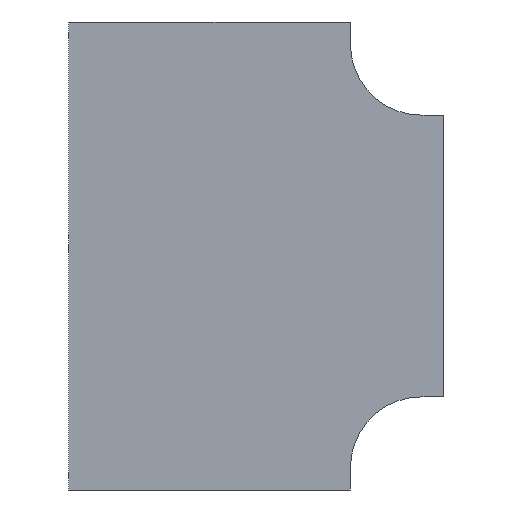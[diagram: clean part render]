
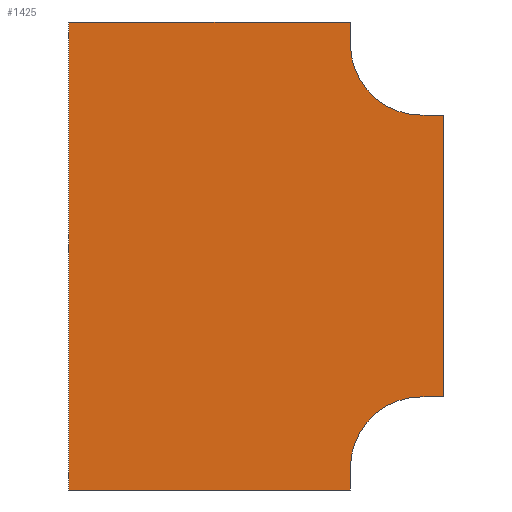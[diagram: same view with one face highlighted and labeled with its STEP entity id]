
A CAD part, front view. The second image highlights one B-rep face of the part: STEP entity #1425.
In plain terms, the highlighted planar face has unit normal (0, -1, 0).
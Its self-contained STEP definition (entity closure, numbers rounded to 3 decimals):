
#36 = CARTESIAN_POINT ( 'NONE',  ( -125., 0., 0. ) ) ;
#42 = VERTEX_POINT ( 'NONE', #1985 ) ;
#92 = CARTESIAN_POINT ( 'NONE',  ( -125., 0., -790. ) ) ;
#150 = ORIENTED_EDGE ( 'NONE', *, *, #1940, .F. ) ;
#228 = ORIENTED_EDGE ( 'NONE', *, *, #1376, .F. ) ;
#251 = LINE ( 'NONE', #1676, #522 ) ;
#280 = ORIENTED_EDGE ( 'NONE', *, *, #577, .F. ) ;
#281 = CARTESIAN_POINT ( 'NONE',  ( -125., 0., 40. ) ) ;
#285 = CARTESIAN_POINT ( 'NONE',  ( -625., 0., -790. ) ) ;
#288 = EDGE_CURVE ( 'NONE', #595, #1028, #1431, .T. ) ;
#305 = ORIENTED_EDGE ( 'NONE', *, *, #1750, .F. ) ;
#308 = ORIENTED_EDGE ( 'NONE', *, *, #288, .F. ) ;
#399 = PLANE ( 'NONE',  #1051 ) ;
#446 = LINE ( 'NONE', #281, #1576 ) ;
#450 = CARTESIAN_POINT ( 'NONE',  ( 40., 0., -625. ) ) ;
#475 = DIRECTION ( 'NONE',  ( 0., 0., 1. ) ) ;
#522 = VECTOR ( 'NONE', #1686, 1000. ) ;
#577 = EDGE_CURVE ( 'NONE', #1329, #1242, #1084, .T. ) ;
#579 = DIRECTION ( 'NONE',  ( 0., 0., -1. ) ) ;
#595 = VERTEX_POINT ( 'NONE', #450 ) ;
#610 = DIRECTION ( 'NONE',  ( 0., 0., -1. ) ) ;
#659 = EDGE_CURVE ( 'NONE', #847, #1335, #1756, .T. ) ;
#661 = CARTESIAN_POINT ( 'NONE',  ( 0., 0., 0. ) ) ;
#742 = FACE_OUTER_BOUND ( 'NONE', #1959, .T. ) ;
#752 = ORIENTED_EDGE ( 'NONE', *, *, #659, .F. ) ;
#768 = LINE ( 'NONE', #793, #1333 ) ;
#775 = EDGE_CURVE ( 'NONE', #1242, #847, #768, .T. ) ;
#793 = CARTESIAN_POINT ( 'NONE',  ( -625., 0., -790. ) ) ;
#847 = VERTEX_POINT ( 'NONE', #285 ) ;
#848 = CARTESIAN_POINT ( 'NONE',  ( -625., 0., -790. ) ) ;
#856 = CARTESIAN_POINT ( 'NONE',  ( -125., 0., -750. ) ) ;
#857 = CIRCLE ( 'NONE', #1924, 125. ) ;
#888 = ORIENTED_EDGE ( 'NONE', *, *, #2011, .F. ) ;
#926 = VERTEX_POINT ( 'NONE', #2075 ) ;
#928 = CARTESIAN_POINT ( 'NONE',  ( 0., 0., -625. ) ) ;
#931 = DIRECTION ( 'NONE',  ( -1., 0., 0. ) ) ;
#987 = DIRECTION ( 'NONE',  ( 0., 0., -1. ) ) ;
#1016 = EDGE_CURVE ( 'NONE', #1028, #1329, #1054, .T. ) ;
#1027 = VECTOR ( 'NONE', #1353, 1000. ) ;
#1028 = VERTEX_POINT ( 'NONE', #1950 ) ;
#1050 = DIRECTION ( 'NONE',  ( 0., 0., -1. ) ) ;
#1051 = AXIS2_PLACEMENT_3D ( 'NONE', #1799, #1835, #579 ) ;
#1054 = CIRCLE ( 'NONE', #1362, 125. ) ;
#1084 = LINE ( 'NONE', #92, #1250 ) ;
#1099 = ORIENTED_EDGE ( 'NONE', *, *, #775, .F. ) ;
#1162 = LINE ( 'NONE', #1879, #1027 ) ;
#1204 = CARTESIAN_POINT ( 'NONE',  ( -625., 0., 40. ) ) ;
#1242 = VERTEX_POINT ( 'NONE', #1690 ) ;
#1250 = VECTOR ( 'NONE', #987, 1000. ) ;
#1286 = CARTESIAN_POINT ( 'NONE',  ( 40., 0., -125. ) ) ;
#1329 = VERTEX_POINT ( 'NONE', #856 ) ;
#1333 = VECTOR ( 'NONE', #931, 1000. ) ;
#1335 = VERTEX_POINT ( 'NONE', #1593 ) ;
#1353 = DIRECTION ( 'NONE',  ( 1., 0., 0. ) ) ;
#1362 = AXIS2_PLACEMENT_3D ( 'NONE', #2122, #1760, #475 ) ;
#1376 = EDGE_CURVE ( 'NONE', #1507, #42, #857, .T. ) ;
#1421 = ORIENTED_EDGE ( 'NONE', *, *, #1016, .F. ) ;
#1425 = ADVANCED_FACE ( 'NONE', ( #742 ), #399, .T. ) ;
#1431 = LINE ( 'NONE', #928, #2096 ) ;
#1464 = ORIENTED_EDGE ( 'NONE', *, *, #1587, .F. ) ;
#1507 = VERTEX_POINT ( 'NONE', #36 ) ;
#1523 = VECTOR ( 'NONE', #1922, 1000. ) ;
#1576 = VECTOR ( 'NONE', #610, 1000. ) ;
#1587 = EDGE_CURVE ( 'NONE', #926, #1507, #446, .T. ) ;
#1593 = CARTESIAN_POINT ( 'NONE',  ( -625., 0., 40. ) ) ;
#1652 = DIRECTION ( 'NONE',  ( -1., 0., 0. ) ) ;
#1676 = CARTESIAN_POINT ( 'NONE',  ( 40., 0., -125. ) ) ;
#1686 = DIRECTION ( 'NONE',  ( 0., 0., -1. ) ) ;
#1690 = CARTESIAN_POINT ( 'NONE',  ( -125., 0., -790. ) ) ;
#1750 = EDGE_CURVE ( 'NONE', #1335, #926, #1914, .T. ) ;
#1756 = LINE ( 'NONE', #848, #2247 ) ;
#1760 = DIRECTION ( 'NONE',  ( 0., -1., 0. ) ) ;
#1799 = CARTESIAN_POINT ( 'NONE',  ( 0., 0., 0. ) ) ;
#1835 = DIRECTION ( 'NONE',  ( 0., -1., 0. ) ) ;
#1879 = CARTESIAN_POINT ( 'NONE',  ( 0., 0., -125. ) ) ;
#1901 = DIRECTION ( 'NONE',  ( 0., 0., 1. ) ) ;
#1914 = LINE ( 'NONE', #1204, #1523 ) ;
#1922 = DIRECTION ( 'NONE',  ( 1., 0., 0. ) ) ;
#1924 = AXIS2_PLACEMENT_3D ( 'NONE', #661, #2155, #1050 ) ;
#1940 = EDGE_CURVE ( 'NONE', #42, #2223, #1162, .T. ) ;
#1950 = CARTESIAN_POINT ( 'NONE',  ( 0., 0., -625. ) ) ;
#1959 = EDGE_LOOP ( 'NONE', ( #305, #752, #1099, #280, #1421, #308, #888, #150, #228, #1464 ) ) ;
#1985 = CARTESIAN_POINT ( 'NONE',  ( 0., 0., -125. ) ) ;
#2011 = EDGE_CURVE ( 'NONE', #2223, #595, #251, .T. ) ;
#2075 = CARTESIAN_POINT ( 'NONE',  ( -125., 0., 40. ) ) ;
#2096 = VECTOR ( 'NONE', #1652, 1000. ) ;
#2122 = CARTESIAN_POINT ( 'NONE',  ( 0., 0., -750. ) ) ;
#2155 = DIRECTION ( 'NONE',  ( 0., -1., 0. ) ) ;
#2223 = VERTEX_POINT ( 'NONE', #1286 ) ;
#2247 = VECTOR ( 'NONE', #1901, 1000. ) ;
